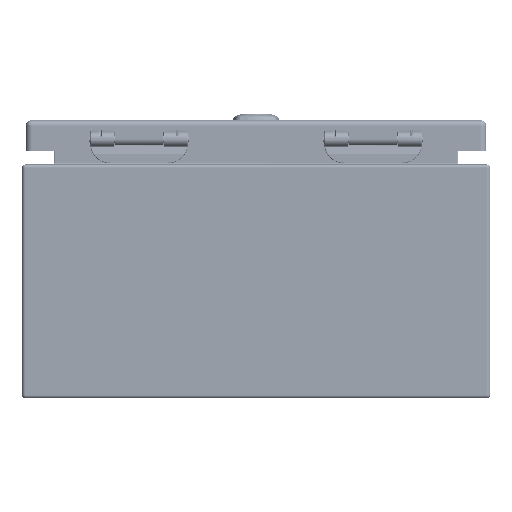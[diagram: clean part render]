
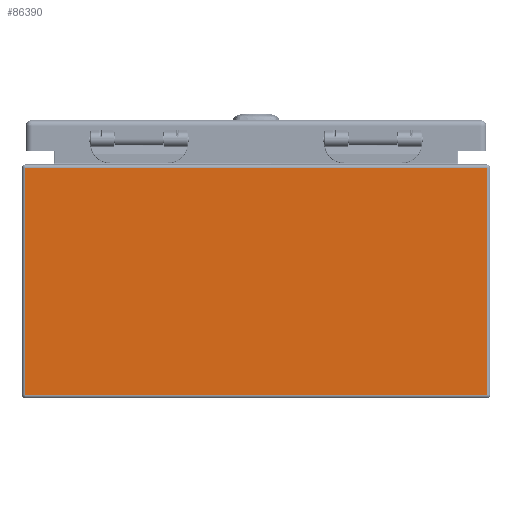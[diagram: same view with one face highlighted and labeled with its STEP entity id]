
A CAD part, left-side view. The second image highlights one B-rep face of the part: STEP entity #86390.
In plain terms, the highlighted planar face has unit normal (-1, 0, 0).
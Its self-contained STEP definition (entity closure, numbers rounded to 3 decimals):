
#7647=LINE('',#120060,#13786);
#7658=LINE('',#120101,#13797);
#7662=LINE('',#120116,#13801);
#7663=LINE('',#120117,#13802);
#13786=VECTOR('',#99859,0.394);
#13797=VECTOR('',#99908,0.394);
#13801=VECTOR('',#99926,0.394);
#13802=VECTOR('',#99927,0.394);
#21200=FACE_OUTER_BOUND('',#26459,.T.);
#26459=EDGE_LOOP('',(#57372,#57373,#57374,#57375));
#34798=VERTEX_POINT('',#120053);
#34799=VERTEX_POINT('',#120058);
#34810=VERTEX_POINT('',#120100);
#34814=VERTEX_POINT('',#120115);
#43542=EDGE_CURVE('',#34799,#34798,#7647,.T.);
#43562=EDGE_CURVE('',#34798,#34810,#7658,.T.);
#43570=EDGE_CURVE('',#34814,#34799,#7662,.T.);
#43571=EDGE_CURVE('',#34814,#34810,#7663,.T.);
#57372=ORIENTED_EDGE('',*,*,#43542,.F.);
#57373=ORIENTED_EDGE('',*,*,#43570,.F.);
#57374=ORIENTED_EDGE('',*,*,#43571,.T.);
#57375=ORIENTED_EDGE('',*,*,#43562,.F.);
#84315=PLANE('',#92735);
#86390=ADVANCED_FACE('',(#21200),#84315,.F.);
#92735=AXIS2_PLACEMENT_3D('',#120114,#99924,#99925);
#99859=DIRECTION('',(0.,-1.,0.));
#99908=DIRECTION('',(0.,0.,-1.));
#99924=DIRECTION('center_axis',(1.,0.,0.));
#99925=DIRECTION('ref_axis',(0.,0.,-1.));
#99926=DIRECTION('',(0.,0.,1.));
#99927=DIRECTION('',(0.,-1.,0.));
#120053=CARTESIAN_POINT('',(-12.,-5.916,5.916));
#120058=CARTESIAN_POINT('',(-12.,5.916,5.916));
#120060=CARTESIAN_POINT('',(-12.,-2.979,5.916));
#120100=CARTESIAN_POINT('',(-12.,-5.916,0.084));
#120101=CARTESIAN_POINT('',(-12.,-5.916,3.));
#120114=CARTESIAN_POINT('Origin',(-12.,0.,3.));
#120115=CARTESIAN_POINT('',(-12.,5.916,0.084));
#120116=CARTESIAN_POINT('',(-12.,5.916,3.));
#120117=CARTESIAN_POINT('',(-12.,3.,0.084));
